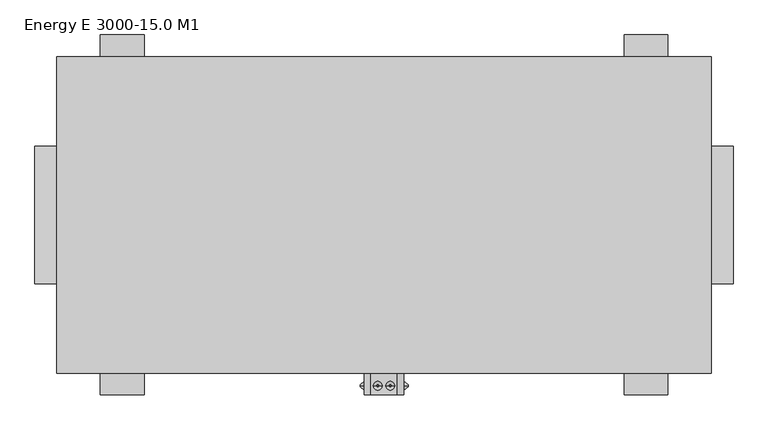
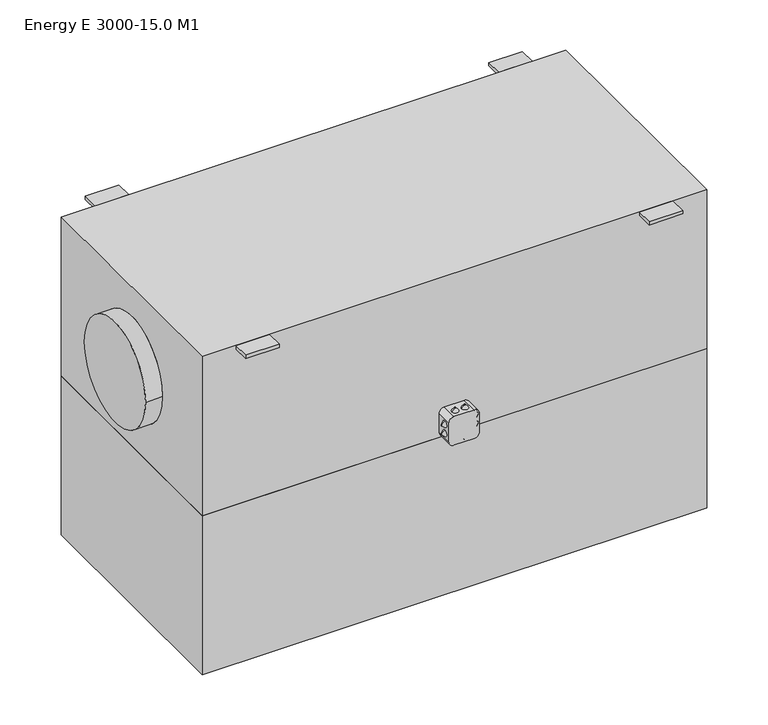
"""IFC4 building model written with IfcOpenShell, lengths in millimetres: proxy geometry, ADSK_КПВУ_ENERGY E_круглая : Energy E 3000-15.0 M1."""

from ifc_helpers import new_model, si_unit, point, frame, frame_2d, origin, place, context, project, spatial, polyline, circle_curve, trimmed, segment, composite_curve, outline, extrude, source, transform, mapped, element, save
from ifc_brep_helpers import plane_surface, cylinder_surface, revolved_surface, advanced_brep


def energy_e_3000_15_0_m1_e094a182(model_context):
    return source(origin(), model_context, "Body", "SolidModel", [
        advanced_brep(
        [(211.0, -391.4311792, -221.7092609), (211.0, -391.4311792, -217.7092609), (221.0, -391.4311792, -229.7092609), (221.0, -391.4311792, -209.7092609)],
        [
            (0, 1, circle_curve(frame((211.0, -391.4311792, -219.7092609), z_axis=(-1.0, 0.0, 0.0), x_axis=(0.0, 0.0, -1.0)), 2.0)),
            (1, 0, circle_curve(frame((211.0, -391.4311792, -219.7092609), z_axis=(-1.0, 0.0, 0.0), x_axis=(0.0, 0.0, 1.0)), 2.0)),
            (2, 3, circle_curve(frame((221.0, -391.4311792, -219.7092609), z_axis=(1.0, 0.0, 0.0), x_axis=(0.0, 0.0, 1.0)), 10.0)),
            (3, 2, circle_curve(frame((221.0, -391.4311792, -219.7092609), z_axis=(1.0, 0.0, 0.0), x_axis=(0.0, 0.0, -1.0)), 10.0)),
            (2, 0),
            (1, 3),
        ],
        [
            plane_surface(frame((211.0, -391.4311792, -219.7092609), z_axis=(-1.0, 0.0, 0.0), x_axis=(0.0, -1.0, 0.0))),
            plane_surface(frame((221.0, -391.4311792, -219.7092609), z_axis=(1.0, 0.0, 0.0), x_axis=(0.0, -1.0, 0.0))),
            revolved_surface(polyline([(211.0, -391.4311792, -217.7092609), (221.0, -391.4311792, -209.7092609)]), (208.5, -391.4311792, -219.7092609), (1.0, 0.0, 0.0)),
            revolved_surface(polyline([(211.0, -391.4311792, -221.7092609), (221.0, -391.4311792, -229.7092609)]), (208.5, -391.4311792, -219.7092609), (1.0, 0.0, 0.0)),
        ],
        [
            (0, [[1, 2]]),
            (1, [[3, 4]]),
            (2, [[-3, 5, -2, 6]]),
            (3, [[-4, -6, -1, -5]]),
        ],
    ),
        advanced_brep(
        [(211.0, -391.4311792, -189.0531164), (211.0, -391.4311792, -193.0531164), (221.0, -391.4311792, -181.0531164), (221.0, -391.4311792, -201.0531164)],
        [
            (0, 1, circle_curve(frame((211.0, -391.4311792, -191.0531164), z_axis=(-1.0, 0.0, 0.0), x_axis=(0.0, 0.0, 1.0)), 2.0)),
            (1, 0, circle_curve(frame((211.0, -391.4311792, -191.0531164), z_axis=(-1.0, 0.0, 0.0), x_axis=(0.0, 0.0, -1.0)), 2.0)),
            (2, 3, circle_curve(frame((221.0, -391.4311792, -191.0531164), z_axis=(1.0, 0.0, 0.0), x_axis=(0.0, 0.0, -1.0)), 10.0)),
            (3, 2, circle_curve(frame((221.0, -391.4311792, -191.0531164), z_axis=(1.0, 0.0, 0.0), x_axis=(0.0, 0.0, 1.0)), 10.0)),
            (3, 1),
            (0, 2),
        ],
        [
            plane_surface(frame((211.0, -391.4311792, -191.0531164), z_axis=(-1.0, 0.0, 0.0), x_axis=(0.0, 1.0, 0.0))),
            plane_surface(frame((221.0, -391.4311792, -191.0531164), z_axis=(1.0, 0.0, 0.0), x_axis=(0.0, 1.0, 0.0))),
            revolved_surface(polyline([(211.0, -391.4311792, -189.0531164), (221.0, -391.4311792, -181.0531164)]), (208.5, -391.4311792, -191.0531164), (1.0, 0.0, 0.0)),
            revolved_surface(polyline([(211.0, -391.4311792, -193.0531164), (221.0, -391.4311792, -201.0531164)]), (208.5, -391.4311792, -191.0531164), (1.0, 0.0, 0.0)),
        ],
        [
            (0, [[1, 2]]),
            (1, [[3, 4]]),
            (2, [[-4, 5, -1, 6]]),
            (3, [[-3, -6, -2, -5]]),
        ],
    ),
        advanced_brep(
        [(321.0, -391.4311792, -221.7092609), (321.0, -391.4311792, -217.7092609), (311.0, -391.4311792, -229.7092609), (311.0, -391.4311792, -209.7092609)],
        [
            (0, 1, circle_curve(frame((321.0, -391.4311792, -219.7092609), z_axis=(1.0, 0.0, 0.0), x_axis=(0.0, 0.0, -1.0)), 2.0)),
            (1, 0, circle_curve(frame((321.0, -391.4311792, -219.7092609), z_axis=(1.0, 0.0, 0.0), x_axis=(0.0, 0.0, 1.0)), 2.0)),
            (2, 3, circle_curve(frame((311.0, -391.4311792, -219.7092609), z_axis=(-1.0, 0.0, 0.0), x_axis=(0.0, 0.0, 1.0)), 10.0)),
            (3, 2, circle_curve(frame((311.0, -391.4311792, -219.7092609), z_axis=(-1.0, 0.0, 0.0), x_axis=(0.0, 0.0, -1.0)), 10.0)),
            (3, 1),
            (0, 2),
        ],
        [
            plane_surface(frame((321.0, -391.4311792, -219.7092609), z_axis=(1.0, 0.0, 0.0), x_axis=(0.0, 1.0, 0.0))),
            plane_surface(frame((311.0, -391.4311792, -219.7092609), z_axis=(-1.0, 0.0, 0.0), x_axis=(0.0, 1.0, 0.0))),
            revolved_surface(polyline([(321.0, -391.4311792, -221.7092609), (311.0, -391.4311792, -229.7092609)]), (323.5, -391.4311792, -219.7092609), (-1.0, 0.0, 0.0)),
            revolved_surface(polyline([(321.0, -391.4311792, -217.7092609), (311.0, -391.4311792, -209.7092609)]), (323.5, -391.4311792, -219.7092609), (-1.0, 0.0, 0.0)),
        ],
        [
            (0, [[1, 2]]),
            (1, [[3, 4]]),
            (2, [[-4, 5, -1, 6]]),
            (3, [[-3, -6, -2, -5]]),
        ],
    ),
        advanced_brep(
        [(321.0, -391.4311792, -189.0531164), (321.0, -391.4311792, -193.0531164), (311.0, -391.4311792, -181.0531164), (311.0, -391.4311792, -201.0531164)],
        [
            (0, 1, circle_curve(frame((321.0, -391.4311792, -191.0531164), z_axis=(1.0, 0.0, 0.0), x_axis=(0.0, 0.0, 1.0)), 2.0)),
            (1, 0, circle_curve(frame((321.0, -391.4311792, -191.0531164), z_axis=(1.0, 0.0, 0.0), x_axis=(0.0, 0.0, -1.0)), 2.0)),
            (2, 3, circle_curve(frame((311.0, -391.4311792, -191.0531164), z_axis=(-1.0, 0.0, 0.0), x_axis=(0.0, 0.0, -1.0)), 10.0)),
            (3, 2, circle_curve(frame((311.0, -391.4311792, -191.0531164), z_axis=(-1.0, 0.0, 0.0), x_axis=(0.0, 0.0, 1.0)), 10.0)),
            (2, 0),
            (1, 3),
        ],
        [
            plane_surface(frame((321.0, -391.4311792, -191.0531164), z_axis=(1.0, 0.0, 0.0), x_axis=(0.0, -1.0, 0.0))),
            plane_surface(frame((311.0, -391.4311792, -191.0531164), z_axis=(-1.0, 0.0, 0.0), x_axis=(0.0, -1.0, 0.0))),
            revolved_surface(polyline([(321.0, -391.4311792, -193.0531164), (311.0, -391.4311792, -201.0531164)]), (323.5, -391.4311792, -191.0531164), (-1.0, 0.0, 0.0)),
            revolved_surface(polyline([(321.0, -391.4311792, -189.0531164), (311.0, -391.4311792, -181.0531164)]), (323.5, -391.4311792, -191.0531164), (-1.0, 0.0, 0.0)),
        ],
        [
            (0, [[1, 2]]),
            (1, [[3, 4]]),
            (2, [[-3, 5, -2, 6]]),
            (3, [[-4, -6, -1, -5]]),
        ],
    ),
        advanced_brep(
        [(249.6719278, -391.4311792, -260.0), (253.6719278, -391.4311792, -260.0), (241.6719278, -391.4311792, -250.0), (261.6719278, -391.4311792, -250.0)],
        [
            (0, 1, circle_curve(frame((251.6719278, -391.4311792, -260.0), z_axis=(0.0, 0.0, -1.0), x_axis=(-1.0, 0.0, 0.0)), 2.0)),
            (1, 0, circle_curve(frame((251.6719278, -391.4311792, -260.0), z_axis=(0.0, 0.0, -1.0), x_axis=(1.0, 0.0, 0.0)), 2.0)),
            (2, 3, circle_curve(frame((251.6719278, -391.4311792, -250.0), z_axis=(0.0, 0.0, 1.0), x_axis=(1.0, 0.0, 0.0)), 10.0)),
            (3, 2, circle_curve(frame((251.6719278, -391.4311792, -250.0), z_axis=(0.0, 0.0, 1.0), x_axis=(-1.0, 0.0, 0.0)), 10.0)),
            (3, 1),
            (0, 2),
        ],
        [
            plane_surface(frame((251.6719278, -391.4311792, -260.0), z_axis=(0.0, 0.0, -1.0), x_axis=(0.0, 1.0, 0.0))),
            plane_surface(frame((251.6719278, -391.4311792, -250.0), z_axis=(0.0, 0.0, 1.0), x_axis=(0.0, 1.0, 0.0))),
            revolved_surface(polyline([(249.6719278, -391.4311792, -260.0), (241.6719278, -391.4311792, -250.0)]), (251.6719278, -391.4311792, -262.5), (0.0, 0.0, 1.0)),
            revolved_surface(polyline([(253.6719278, -391.4311792, -260.0), (261.6719278, -391.4311792, -250.0)]), (251.6719278, -391.4311792, -262.5), (0.0, 0.0, 1.0)),
        ],
        [
            (0, [[1, 2]]),
            (1, [[3, 4]]),
            (2, [[-4, 5, -1, 6]]),
            (3, [[-3, -6, -2, -5]]),
        ],
    ),
        advanced_brep(
        [(282.3280722, -391.4311792, -260.0), (278.3280722, -391.4311792, -260.0), (290.3280722, -391.4311792, -250.0), (270.3280722, -391.4311792, -250.0)],
        [
            (0, 1, circle_curve(frame((280.3280722, -391.4311792, -260.0), z_axis=(0.0, 0.0, -1.0), x_axis=(1.0, 0.0, 0.0)), 2.0)),
            (1, 0, circle_curve(frame((280.3280722, -391.4311792, -260.0), z_axis=(0.0, 0.0, -1.0), x_axis=(-1.0, 0.0, 0.0)), 2.0)),
            (2, 3, circle_curve(frame((280.3280722, -391.4311792, -250.0), z_axis=(0.0, 0.0, 1.0), x_axis=(-1.0, 0.0, 0.0)), 10.0)),
            (3, 2, circle_curve(frame((280.3280722, -391.4311792, -250.0), z_axis=(0.0, 0.0, 1.0), x_axis=(1.0, 0.0, 0.0)), 10.0)),
            (2, 0),
            (1, 3),
        ],
        [
            plane_surface(frame((280.3280722, -391.4311792, -260.0), z_axis=(0.0, 0.0, -1.0), x_axis=(0.0, -1.0, 0.0))),
            plane_surface(frame((280.3280722, -391.4311792, -250.0), z_axis=(0.0, 0.0, 1.0), x_axis=(0.0, -1.0, 0.0))),
            revolved_surface(polyline([(278.3280722, -391.4311792, -260.0), (270.3280722, -391.4311792, -250.0)]), (280.3280722, -391.4311792, -262.5), (0.0, 0.0, 1.0)),
            revolved_surface(polyline([(282.3280722, -391.4311792, -260.0), (290.3280722, -391.4311792, -250.0)]), (280.3280722, -391.4311792, -262.5), (0.0, 0.0, 1.0)),
        ],
        [
            (0, [[1, 2]]),
            (1, [[3, 4]]),
            (2, [[-3, 5, -2, 6]]),
            (3, [[-4, -6, -1, -5]]),
        ],
    ),
        advanced_brep(
        [(249.6719278, -391.4311792, -150.0), (253.6719278, -391.4311792, -150.0), (241.6719278, -391.4311792, -160.0), (261.6719278, -391.4311792, -160.0)],
        [
            (0, 1, circle_curve(frame((251.6719278, -391.4311792, -150.0), z_axis=(0.0, 0.0, 1.0), x_axis=(-1.0, 0.0, 0.0)), 2.0)),
            (1, 0, circle_curve(frame((251.6719278, -391.4311792, -150.0), z_axis=(0.0, 0.0, 1.0), x_axis=(1.0, 0.0, 0.0)), 2.0)),
            (2, 3, circle_curve(frame((251.6719278, -391.4311792, -160.0), z_axis=(0.0, 0.0, -1.0), x_axis=(1.0, 0.0, 0.0)), 10.0)),
            (3, 2, circle_curve(frame((251.6719278, -391.4311792, -160.0), z_axis=(0.0, 0.0, -1.0), x_axis=(-1.0, 0.0, 0.0)), 10.0)),
            (2, 0),
            (1, 3),
        ],
        [
            plane_surface(frame((251.6719278, -391.4311792, -150.0), z_axis=(0.0, 0.0, 1.0), x_axis=(0.0, -1.0, 0.0))),
            plane_surface(frame((251.6719278, -391.4311792, -160.0), z_axis=(0.0, 0.0, -1.0), x_axis=(0.0, -1.0, 0.0))),
            revolved_surface(polyline([(253.6719278, -391.4311792, -150.0), (261.6719278, -391.4311792, -160.0)]), (251.6719278, -391.4311792, -147.5), (0.0, 0.0, -1.0)),
            revolved_surface(polyline([(249.6719278, -391.4311792, -150.0), (241.6719278, -391.4311792, -160.0)]), (251.6719278, -391.4311792, -147.5), (0.0, 0.0, -1.0)),
        ],
        [
            (0, [[1, 2]]),
            (1, [[3, 4]]),
            (2, [[-3, 5, -2, 6]]),
            (3, [[-4, -6, -1, -5]]),
        ],
    ),
        advanced_brep(
        [(282.3280722, -391.4311792, -150.0), (278.3280722, -391.4311792, -150.0), (290.3280722, -391.4311792, -160.0), (270.3280722, -391.4311792, -160.0)],
        [
            (0, 1, circle_curve(frame((280.3280722, -391.4311792, -150.0), z_axis=(0.0, 0.0, 1.0), x_axis=(1.0, 0.0, 0.0)), 2.0)),
            (1, 0, circle_curve(frame((280.3280722, -391.4311792, -150.0), z_axis=(0.0, 0.0, 1.0), x_axis=(-1.0, 0.0, 0.0)), 2.0)),
            (2, 3, circle_curve(frame((280.3280722, -391.4311792, -160.0), z_axis=(0.0, 0.0, -1.0), x_axis=(-1.0, 0.0, 0.0)), 10.0)),
            (3, 2, circle_curve(frame((280.3280722, -391.4311792, -160.0), z_axis=(0.0, 0.0, -1.0), x_axis=(1.0, 0.0, 0.0)), 10.0)),
            (3, 1),
            (0, 2),
        ],
        [
            plane_surface(frame((280.3280722, -391.4311792, -150.0), z_axis=(0.0, 0.0, 1.0), x_axis=(0.0, 1.0, 0.0))),
            plane_surface(frame((280.3280722, -391.4311792, -160.0), z_axis=(0.0, 0.0, -1.0), x_axis=(0.0, 1.0, 0.0))),
            revolved_surface(polyline([(282.3280722, -391.4311792, -150.0), (290.3280722, -391.4311792, -160.0)]), (280.3280722, -391.4311792, -147.5), (0.0, 0.0, -1.0)),
            revolved_surface(polyline([(278.3280722, -391.4311792, -150.0), (270.3280722, -391.4311792, -160.0)]), (280.3280722, -391.4311792, -147.5), (0.0, 0.0, -1.0)),
        ],
        [
            (0, [[1, 2]]),
            (1, [[3, 4]]),
            (2, [[-4, 5, -1, 6]]),
            (3, [[-3, -6, -2, -5]]),
        ],
    ),
        extrude(outline(composite_curve([segment(polyline([(-250.0, 236.0), (-250.0, 296.0)]), True, "CONTINUOUS"), segment(trimmed(circle_curve(frame_2d((-235.0, 296.0)), 15.0), [point((-250.0, 296.0))], [point((-235.0, 311.0))], False, "CARTESIAN"), True, "CONTINUOUS"), segment(polyline([(-235.0, 311.0), (-175.0, 311.0)]), True, "CONTINUOUS"), segment(trimmed(circle_curve(frame_2d((-175.0, 296.0)), 15.0), [point((-175.0, 311.0))], [point((-160.0, 296.0))], False, "CARTESIAN"), True, "CONTINUOUS"), segment(polyline([(-160.0, 296.0), (-160.0, 236.0)]), True, "CONTINUOUS"), segment(trimmed(circle_curve(frame_2d((-175.0, 236.0)), 15.0), [point((-160.0, 236.0))], [point((-175.0, 221.0))], False, "CARTESIAN"), True, "CONTINUOUS"), segment(polyline([(-175.0, 221.0), (-235.0, 221.0)]), True, "CONTINUOUS"), segment(trimmed(circle_curve(frame_2d((-235.0, 236.0)), 15.0), [point((-235.0, 221.0))], [point((-250.0, 236.0))], False, "CARTESIAN"), True, "CONTINUOUS")], self_intersect=False)), frame((0.0, -412.5, 0.0), z_axis=(0.0, 1.0, 0.0), x_axis=(0.0, 0.0, 1.0)), (0.0, 0.0, 1.0), 50.0),
        advanced_brep(
        [(1016.0, -362.5, 250.0), (1016.0, -362.5, -250.0), (1016.0, 362.5, -250.0), (1016.0, 362.5, 250.0), (1016.0, 157.5, 0.0), (1016.0, -157.5, 0.0), (-484.0, -362.5, 250.0), (-484.0, 362.5, 250.0), (-484.0, 362.5, -250.0), (-484.0, -362.5, -250.0), (-484.0, 157.5, 0.0), (-484.0, -157.5, 0.0), (-534.0, -157.5, 0.0), (-534.0, 157.5, 0.0), (1066.0, -157.5, 0.0), (1066.0, 157.5, 0.0)],
        [
            (0, 1),
            (1, 2),
            (2, 3),
            (3, 0),
            (4, 5, circle_curve(frame((1016.0, 0.0, 0.0), z_axis=(-1.0, 0.0, 0.0), x_axis=(0.0, 1.0, 0.0)), 157.5)),
            (5, 4, circle_curve(frame((1016.0, 0.0, 0.0), z_axis=(-1.0, 0.0, 0.0), x_axis=(0.0, 1.0, 0.0)), 157.5)),
            (6, 7),
            (7, 8),
            (8, 9),
            (9, 6),
            (10, 11, circle_curve(frame((-484.0, 0.0, 0.0), z_axis=(1.0, 0.0, 0.0), x_axis=(0.0, 1.0, 0.0)), 157.5)),
            (11, 10, circle_curve(frame((-484.0, 0.0, 0.0), z_axis=(1.0, 0.0, 0.0), x_axis=(0.0, 1.0, 0.0)), 157.5)),
            (12, 13, circle_curve(frame((-534.0, 0.0, 0.0), z_axis=(-1.0, 0.0, 0.0), x_axis=(0.0, 1.0, 0.0)), 157.5)),
            (13, 12, circle_curve(frame((-534.0, 0.0, 0.0), z_axis=(-1.0, 0.0, 0.0), x_axis=(0.0, 1.0, 0.0)), 157.5)),
            (0, 6),
            (9, 1),
            (8, 2),
            (7, 3),
            (12, 11),
            (10, 13),
            (14, 15, circle_curve(frame((1066.0, 0.0, 0.0), z_axis=(1.0, 0.0, 0.0), x_axis=(0.0, 1.0, 0.0)), 157.5)),
            (15, 14, circle_curve(frame((1066.0, 0.0, 0.0), z_axis=(1.0, 0.0, 0.0), x_axis=(0.0, 1.0, 0.0)), 157.5)),
            (14, 5),
            (4, 15),
        ],
        [
            plane_surface(frame((1016.0, -362.5, 250.0), z_axis=(1.0, 0.0, 0.0), x_axis=(0.0, 0.0, -1.0))),
            plane_surface(frame((-484.0, -362.5, 250.0), z_axis=(-1.0, 0.0, 0.0), x_axis=(0.0, 0.0, 1.0))),
            plane_surface(frame((-534.0, 157.5, 0.0), z_axis=(-1.0, 0.0, 0.0), x_axis=(0.0, 0.0, -1.0))),
            plane_surface(frame((1016.0, -362.5, 250.0), z_axis=(0.0, -1.0, 0.0), x_axis=(-1.0, 0.0, 0.0))),
            plane_surface(frame((1016.0, -362.5, -250.0), z_axis=(0.0, 0.0, -1.0), x_axis=(-1.0, 0.0, 0.0))),
            plane_surface(frame((1016.0, 362.5, -250.0), z_axis=(0.0, 1.0, 0.0), x_axis=(-1.0, 0.0, 0.0))),
            plane_surface(frame((1016.0, 362.5, 250.0), z_axis=(0.0, 0.0, 1.0), x_axis=(-1.0, 0.0, 0.0))),
            cylinder_surface(frame((-534.0, 0.0, 0.0), z_axis=(1.0, 0.0, 0.0), x_axis=(0.0, 1.0, 0.0)), 157.5),
            plane_surface(frame((1066.0, 157.5, 0.0), z_axis=(1.0, 0.0, 0.0), x_axis=(0.0, 0.0, 1.0))),
            cylinder_surface(frame((1016.0, 0.0, 0.0), z_axis=(1.0, 0.0, 0.0), x_axis=(0.0, 1.0, 0.0)), 157.5),
        ],
        [
            (0, [[1, 2, 3, 4], [5, 6]]),
            (1, [[7, 8, 9, 10], [11, 12]]),
            (2, [[13, 14]]),
            (3, [[-1, 15, -10, 16]]),
            (4, [[-2, -16, -9, 17]]),
            (5, [[-3, -17, -8, 18]]),
            (6, [[-4, -18, -7, -15]]),
            (7, [[-13, 19, -11, 20]]),
            (7, [[-14, -20, -12, -19]]),
            (8, [[21, 22]]),
            (9, [[-21, 23, -5, 24]]),
            (9, [[-22, -24, -6, -23]]),
        ],
    ),
        extrude(outline(polyline([(-284.0, 412.5), (-284.0, 362.5), (-384.0, 362.5), (-384.0, 412.5), (-284.0, 412.5)])), frame((0.0, 0.0, 240.0), z_axis=(0.0, 0.0, 1.0), x_axis=(1.0, 0.0, 0.0)), (0.0, 0.0, 1.0), 10.0),
        extrude(outline(polyline([(816.0, 412.5), (916.0, 412.5), (916.0, 362.5), (816.0, 362.5), (816.0, 412.5)])), frame((0.0, 0.0, 240.0), z_axis=(0.0, 0.0, 1.0), x_axis=(1.0, 0.0, 0.0)), (0.0, 0.0, 1.0), 10.0),
        extrude(outline(polyline([(-284.0, -412.5), (-384.0, -412.5), (-384.0, -362.5), (-284.0, -362.5), (-284.0, -412.5)])), frame((0.0, 0.0, 240.0), z_axis=(0.0, 0.0, 1.0), x_axis=(1.0, 0.0, 0.0)), (0.0, 0.0, 1.0), 10.0),
        extrude(outline(polyline([(816.0, -412.5), (816.0, -362.5), (916.0, -362.5), (916.0, -412.5), (816.0, -412.5)])), frame((0.0, 0.0, 240.0), z_axis=(0.0, 0.0, 1.0), x_axis=(1.0, 0.0, 0.0)), (0.0, 0.0, 1.0), 10.0),
        extrude(outline(polyline([(1016.0, 362.5), (1016.0, -362.5), (-484.0, -362.5), (-484.0, 362.5), (1016.0, 362.5)])), frame((0.0, 0.0, -750.0), z_axis=(0.0, 0.0, 1.0), x_axis=(1.0, 0.0, 0.0)), (0.0, 0.0, 1.0), 500.0),
    ])


if __name__ == "__main__":
    model = new_model("IFC4")
    model_context = context("Model", 3, world=origin())
    ifc_project = project(units=[si_unit("LENGTHUNIT", "METRE", prefix="MILLI")], contexts=[model_context])
    site = spatial("IfcSite", under=ifc_project)
    building = spatial("IfcBuilding", under=site)
    placement = place(None, origin())
    energy_e_3000_15_0_m1_shape = energy_e_3000_15_0_m1_e094a182(model_context)
    element("IfcBuildingElementProxy", 1, Name="ADSK_КПВУ_ENERGY E_круглая : Energy E 3000-15.0 M1", ObjectType="ADSK_КПВУ_ENERGY E_круглая : Energy E 3000-15.0 M1", at=placement, inside=building, context=model_context, shape_type="MappedRepresentation", body=[
        mapped(energy_e_3000_15_0_m1_shape, transform((0.0, 0.0, 0.0), x_axis=(1.0, 0.0, 0.0), y_axis=(0.0, 1.0, 0.0), z_axis=(0.0, 0.0, 1.0))),
    ])
    save(model, "model.ifc")
